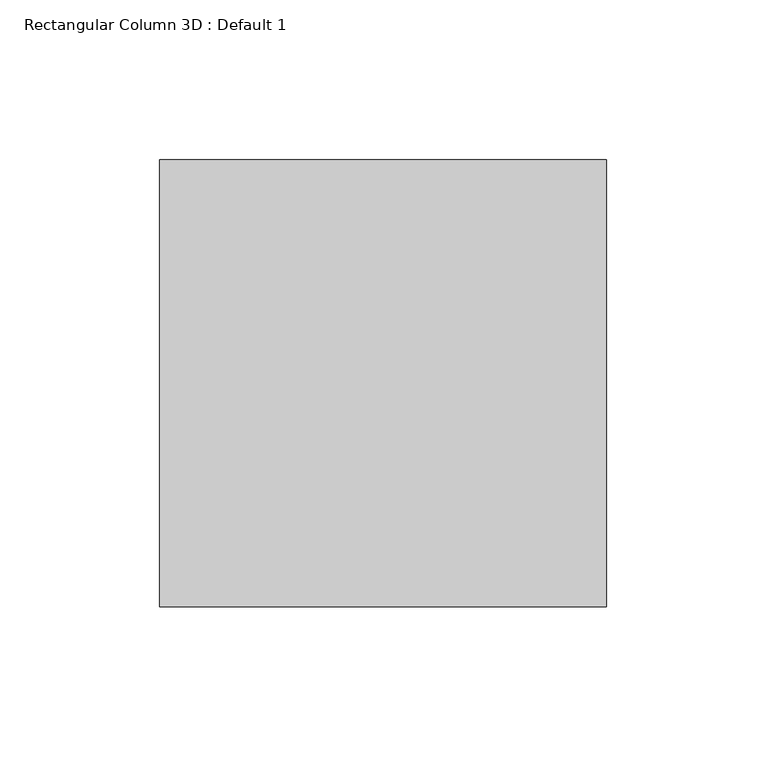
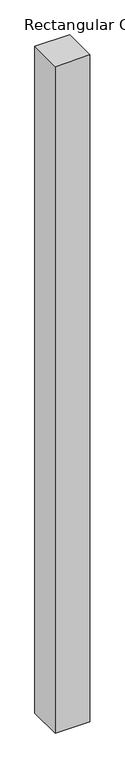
"""IFC4 building model written with IfcOpenShell, lengths in millimetres: column geometry, Rectangular Column 3D : Default 1."""

from ifc_helpers import new_model, si_unit, origin, origin_with_axes, place, context, project, spatial, polyline, outline, extrude, source, transform, mapped, element, save


def rectangular_column_3d_default_1_ab77f7e9(model_context):
    return source(origin(), model_context, "Body", "SweptSolid", [
        extrude(outline(polyline([(139.7, 139.7), (139.7, 0.0), (0.0, 0.0), (0.0, 139.7), (139.7, 139.7)])), origin_with_axes(), (0.0, 0.0, 1.0), 2819.4),
    ])


if __name__ == "__main__":
    model = new_model("IFC4")
    model_context = context("Model", 3, world=origin())
    ifc_project = project(units=[si_unit("LENGTHUNIT", "METRE", prefix="MILLI")], contexts=[model_context])
    site = spatial("IfcSite", under=ifc_project)
    building = spatial("IfcBuilding", under=site)
    placement = place(None, origin())
    rectangular_column_3d_default_1_shape = rectangular_column_3d_default_1_ab77f7e9(model_context)
    element("IfcColumn", 1, ObjectType="Rectangular Column 3D : Default 1", at=placement, inside=building, context=model_context, shape_type="MappedRepresentation", body=[
        mapped(rectangular_column_3d_default_1_shape, transform((0.0, 0.0, 0.0), x_axis=(1.0, 0.0, 0.0), y_axis=(0.0, 1.0, 0.0), z_axis=(0.0, 0.0, 1.0))),
    ])
    save(model, "model.ifc")
